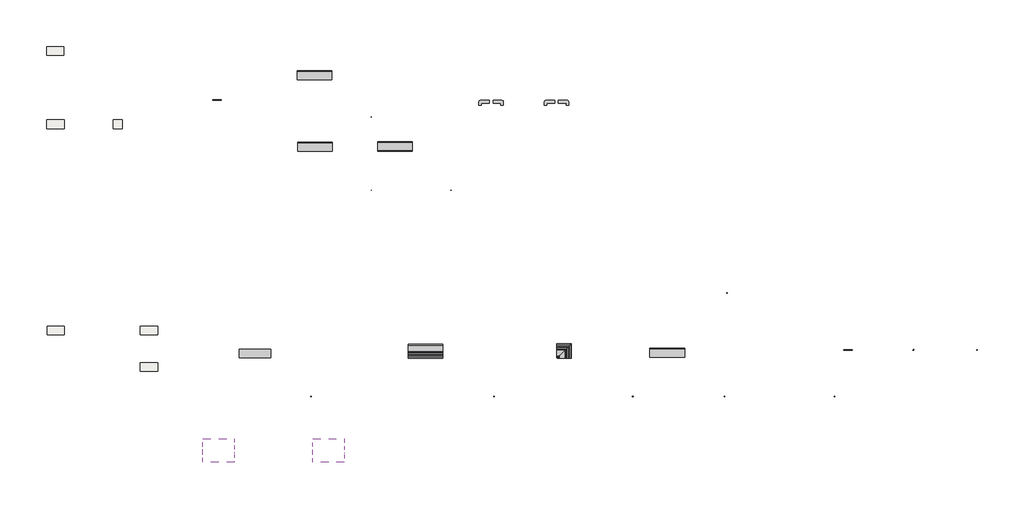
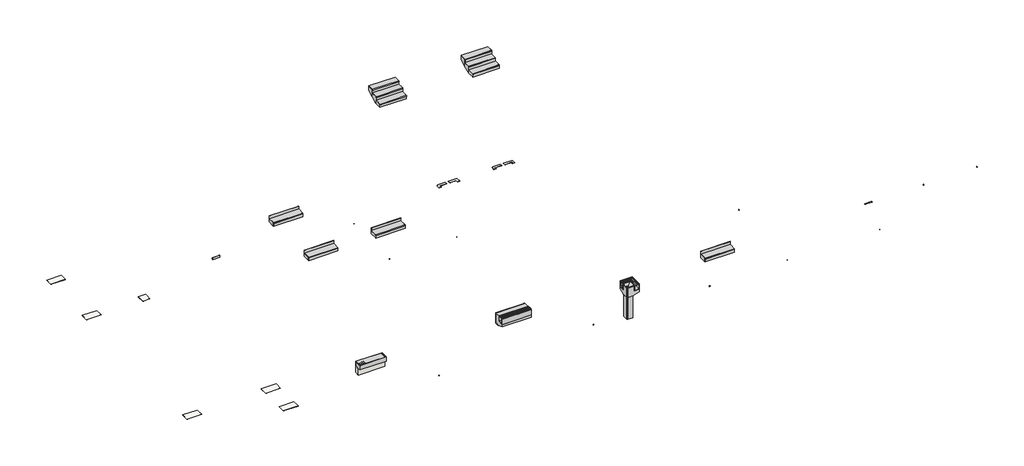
# One storey, incomplete: 18 slabs, 15 proxies, 6 stair flights, 3 walls.
"""IFC4 building model written with IfcOpenShell, lengths in millimetres."""

from ifc_helpers import new_model, si_unit, point, frame, frame_2d, origin, place, context, project, spatial, polyline, circle_curve, trimmed, segment, composite_curve, outline, extrude, faceted_brep, transform, mapped, element, save
from components import generic_models_5bab8272, generic_models_c79c0e69, generic_models_6290b49e, generic_models_9a913470, roca_polar_33x3cm_504bcb03, roca_polar_3x3cm_d871d5da, roca_polar_4x4cm_b0f7cce5, roca_polar_angulo_33x33cm_rejilla_24_5x33cm_6b5bcf94

model = new_model("IFC4")

# Units and contexts
model_context = context("Model", 3, world=origin())
ifc_project = project(units=[si_unit("LENGTHUNIT", "METRE", prefix="MILLI")], contexts=[model_context])

# Site, building, storey
site = spatial("IfcSite", under=ifc_project)
building = spatial("IfcBuilding", under=site)
storey = spatial("IfcBuildingStorey", under=building, Name="EXAGRES_Serie ROCA POLAR_Catálogo", Elevation=18000.0)

# Proxies
placement = place(None, origin())
element("IfcBuildingElementProxy", 1, Name="Exagres_Roca_Polar_Rodapie_9x33", ObjectType="Exagres_Roca_Polar_Rodapie_9x33", at=placement, inside=storey, context=model_context, shape_type="SweptSolid", body=[
    extrude(outline(polyline([(-1251.4690204, 18090.0), (-1251.4690204, 18000.0), (-1266.4690204, 18000.0), (-1266.4690204, 18085.0), (-1261.4690204, 18090.0), (-1251.4690204, 18090.0)])), frame((5125.0437143, 0.0, 0.0), z_axis=(1.0, 0.0, 0.0), x_axis=(0.0, 1.0, 0.0)), (0.0, 0.0, 1.0), 330.0),
])
element("IfcBuildingElementProxy", 2, Name="Wall Sweeps", at=placement, inside=storey, context=model_context, shape_type="SweptSolid", body=[
    extrude(outline(polyline([(-10629.7277813, 18046.2592037), (-10829.7277813, 18046.2592037), (-11129.7277813, 18144.7108891), (-11129.7277813, 18250.0), (-10879.7277813, 18250.0), (-10879.7277813, 18500.0), (-10629.7277813, 18500.0), (-10629.7277813, 18046.2592037)])), frame((12587.844275, 0.0, 0.0), z_axis=(1.0, 0.0, 0.0), x_axis=(0.0, 1.0, 0.0)), (0.0, 0.0, 1.0), 1320.0),
])
element("IfcBuildingElementProxy", 3, Name="Wall Sweeps", at=placement, inside=storey, context=model_context, shape_type="SweptSolid", body=[
    extrude(outline(polyline([(-10909.7277813, 18300.0), (-10909.7277813, 18500.0), (-10879.7277813, 18500.0), (-10879.7277813, 18250.0), (-11129.7277813, 18250.0), (-11129.7277813, 18500.0), (-11099.7277813, 18500.0), (-11099.7277813, 18300.0), (-10909.7277813, 18300.0)])), frame((12587.844275, 0.0, 0.0), z_axis=(1.0, 0.0, 0.0), x_axis=(0.0, 1.0, 0.0)), (0.0, 0.0, 1.0), 1320.0),
])
element("IfcBuildingElementProxy", 4, Name="Wall Sweeps", at=placement, inside=storey, context=model_context, shape_type="SweptSolid", body=[
    extrude(outline(composite_curve([segment(trimmed(circle_curve(frame_2d((-11079.7277813, 18500.0)), 15.0), [point((-11079.7277813, 18515.0))], [point((-11094.7277813, 18500.0))], True, "CARTESIAN"), True, "CONTINUOUS"), segment(polyline([(-11094.7277813, 18500.0), (-11124.7277813, 18500.0), (-11124.7277813, 18511.0), (-11102.2277813, 18511.0), (-11102.2277813, 18519.0), (-11120.7277813, 18519.0), (-11120.7277813, 18530.0), (-11081.2277813, 18530.0), (-11081.2277813, 18525.0), (-11073.2277813, 18525.0), (-11073.2277813, 18530.0), (-11033.7277813, 18530.0), (-11034.7277813, 18519.0), (-11039.7277813, 18519.0), (-11039.7277813, 18511.0), (-11019.7277813, 18511.0), (-11019.7277813, 18519.0), (-11024.7277813, 18519.0), (-11025.7277813, 18530.0), (-10986.2277813, 18530.0), (-10986.2277813, 18525.0), (-10978.2277813, 18525.0), (-10978.2277813, 18530.0), (-10938.7277813, 18530.0), (-10939.7277813, 18519.0), (-10944.7277813, 18519.0), (-10944.7277813, 18511.0), (-10924.7277813, 18511.0), (-10924.7277813, 18519.0), (-10929.7277813, 18519.0), (-10930.7277813, 18530.0), (-10891.2277813, 18530.0), (-10884.7277813, 18515.0), (-10884.7277813, 18500.0), (-10896.7277813, 18500.0), (-10896.7277813, 18511.0)]), True, "CONTINUOUS"), segment(trimmed(circle_curve(frame_2d((-10900.4777813, 18511.0)), 3.75), [point((-10896.7277813, 18511.0))], [point((-10904.2277813, 18511.0))], True, "CARTESIAN"), True, "CONTINUOUS"), segment(polyline([(-10904.2277813, 18511.0), (-10904.2277813, 18500.0), (-10964.7277813, 18500.0)]), True, "CONTINUOUS"), segment(trimmed(circle_curve(frame_2d((-10979.7277813, 18500.0)), 15.0), [point((-10964.7277813, 18500.0))], [point((-10979.7277813, 18515.0))], True, "CARTESIAN"), True, "CONTINUOUS"), segment(polyline([(-10979.7277813, 18515.0), (-10984.7277813, 18515.0)]), True, "CONTINUOUS"), segment(trimmed(circle_curve(frame_2d((-10984.7277813, 18500.0)), 15.0), [point((-10984.7277813, 18515.0))], [point((-10999.7277813, 18500.0))], True, "CARTESIAN"), True, "CONTINUOUS"), segment(polyline([(-10999.7277813, 18500.0), (-11059.7277813, 18500.0)]), True, "CONTINUOUS"), segment(trimmed(circle_curve(frame_2d((-11074.7277813, 18500.0)), 15.0), [point((-11059.7277813, 18500.0))], [point((-11074.7277813, 18515.0))], True, "CARTESIAN"), True, "CONTINUOUS"), segment(polyline([(-11074.7277813, 18515.0), (-11079.7277813, 18515.0)]), True, "CONTINUOUS")], self_intersect=False)), frame((12587.844275, 0.0, 0.0), z_axis=(1.0, 0.0, 0.0), x_axis=(0.0, 1.0, 0.0)), (0.0, 0.0, 1.0), 1320.0),
])
element("IfcBuildingElementProxy", 5, Name="Wall Sweeps", at=placement, inside=storey, context=model_context, shape_type="SweptSolid", body=[
    extrude(outline(polyline([(-10787.7277813, 18500.0), (-10787.7277813, 18508.0), (-10786.7277813, 18508.0), (-10786.7277813, 18514.0), (-10787.7277813, 18514.0), (-10787.7277813, 18521.0), (-10794.7277813, 18521.0), (-10794.7277813, 18522.0), (-10798.7277813, 18522.0), (-10798.7277813, 18521.0), (-10804.7277813, 18521.0), (-10804.7277813, 18522.0), (-10808.7277813, 18522.0), (-10808.7277813, 18521.0), (-10814.7277813, 18521.0), (-10814.7277813, 18522.0), (-10818.7277813, 18522.0), (-10818.7277813, 18521.0), (-10824.7277813, 18521.0), (-10824.7277813, 18522.0), (-10828.7277813, 18522.0), (-10828.7277813, 18521.0), (-10834.7277813, 18521.0), (-10834.7277813, 18522.0), (-10838.7277813, 18522.0), (-10838.7277813, 18521.0), (-10844.7277813, 18521.0), (-10844.7277813, 18522.0), (-10848.7277813, 18522.0), (-10848.7277813, 18521.0), (-10854.7277813, 18521.0), (-10854.7277813, 18522.0), (-10858.7277813, 18522.0), (-10858.7277813, 18521.0), (-10864.7277813, 18521.0), (-10864.7277813, 18522.0), (-10868.7277813, 18522.0), (-10868.7277813, 18521.0), (-10874.7277813, 18521.0), (-10874.7277813, 18522.0), (-10878.7277813, 18522.0), (-10878.7277813, 18521.0), (-10884.7277813, 18521.0), (-10884.7277813, 18522.0), (-10888.7277813, 18522.0), (-10888.7277813, 18521.0), (-10894.7277813, 18521.0), (-10894.7277813, 18522.0), (-10898.7277813, 18522.0), (-10898.7277813, 18521.0), (-10904.7277813, 18521.0), (-10904.7277813, 18522.0), (-10908.7277813, 18522.0), (-10908.7277813, 18521.0), (-10914.7277813, 18521.0), (-10914.7277813, 18522.0), (-10918.7277813, 18522.0), (-10918.7277813, 18521.0), (-10924.7277813, 18521.0), (-10924.7277813, 18522.0), (-10928.7277813, 18522.0), (-10928.7277813, 18521.0), (-10934.7277813, 18521.0), (-10934.7277813, 18522.0), (-10938.7277813, 18522.0), (-10938.7277813, 18521.0), (-10944.7277813, 18521.0), (-10944.7277813, 18522.0), (-10948.7277813, 18522.0), (-10948.7277813, 18521.0), (-10954.7277813, 18521.0), (-10954.7277813, 18522.0), (-10958.7277813, 18522.0), (-10958.7277813, 18521.0), (-10964.7277813, 18521.0), (-10964.7277813, 18522.0), (-10968.7277813, 18522.0), (-10968.7277813, 18521.0), (-10974.7277813, 18521.0), (-10974.7277813, 18522.0), (-10978.7277813, 18522.0), (-10978.7277813, 18521.0), (-10984.7277813, 18521.0), (-10984.7277813, 18522.0), (-10988.7277813, 18522.0), (-10988.7277813, 18521.0), (-10994.7277813, 18521.0), (-10994.7277813, 18522.0), (-10998.7277813, 18522.0), (-10998.7277813, 18521.0), (-11004.7277813, 18521.0), (-11004.7277813, 18522.0), (-11008.7277813, 18522.0), (-11008.7277813, 18521.0), (-11014.7277813, 18521.0), (-11014.7277813, 18522.0), (-11018.7277813, 18522.0), (-11018.7277813, 18521.0), (-11024.7277813, 18521.0), (-11024.7277813, 18522.0), (-11028.7277813, 18522.0), (-11028.7277813, 18521.0), (-11034.7277813, 18521.0), (-11034.7277813, 18522.0), (-11038.7277813, 18522.0), (-11038.7277813, 18521.0), (-11044.7277813, 18521.0), (-11044.7277813, 18522.0), (-11048.7277813, 18522.0), (-11048.7277813, 18521.0), (-11054.7277813, 18521.0), (-11054.7277813, 18522.0), (-11058.7277813, 18522.0), (-11058.7277813, 18521.0), (-11064.7277813, 18521.0), (-11064.7277813, 18522.0), (-11068.7277813, 18522.0), (-11068.7277813, 18521.0), (-11074.7277813, 18521.0), (-11074.7277813, 18522.0), (-11078.7277813, 18522.0), (-11078.7277813, 18521.0), (-11084.7277813, 18521.0), (-11084.7277813, 18522.0), (-11088.7277813, 18522.0), (-11088.7277813, 18521.0), (-11094.7277813, 18521.0), (-11094.7277813, 18522.0), (-11098.7277813, 18522.0), (-11098.7277813, 18521.0), (-11104.7277813, 18521.0), (-11104.7277813, 18533.0), (-10774.7277813, 18533.0), (-10774.7277813, 18500.0), (-10787.7277813, 18500.0)])), frame((6130.0707994, 0.0, 0.0), z_axis=(1.0, 0.0, 0.0), x_axis=(0.0, 1.0, 0.0)), (0.0, 0.0, 1.0), 1202.0),
])
element("IfcBuildingElementProxy", 6, Name="Wall Sweeps", at=placement, inside=storey, context=model_context, shape_type="Brep", body=[
    faceted_brep([(6130.0707994, -11094.7277813, 18318.74), (6130.0707994, -11094.7277813, 18518.74), (6130.0707994, -10789.7277813, 18518.74), (6130.0707994, -10789.7277813, 18500.0), (6130.0707994, -10789.7277813, 18318.74), (6130.0707994, -10999.7277813, 18318.74), (7332.0707994, -11094.7277813, 18318.74), (7332.0707994, -10999.7277813, 18318.74), (7332.0707994, -10789.7277813, 18318.74), (7332.0707994, -10789.7277813, 18500.0), (7332.0707994, -10789.7277813, 18518.74), (7332.0707994, -11094.7277813, 18518.74)], [[[0, 1, 2, 3, 4, 5]], [[6, 7, 8, 9, 10, 11]], [[0, 5, 4, 8, 7, 6]], [[4, 3, 2, 10, 9, 8]], [[2, 1, 11, 10]], [[1, 0, 6, 11]]]),
])
generic_models_shape = generic_models_5bab8272(model_context)
element("IfcBuildingElementProxy", 7, Name="Zanquin Recto 42.3x17.5 : Exagres_Roca_Polar_Zanquin_Rect_Izq", ObjectType="Zanquin Recto 42.3x17.5 : Exagres_Roca_Polar_Zanquin_Rect_Izq", at=placement, inside=storey, context=model_context, shape_type="MappedRepresentation", body=[
    mapped(generic_models_shape, transform((15392.0707994, -1375.5173558, 18000.0), x_axis=(1.0, 0.0, 0.0), y_axis=(0.0, 1.0, 0.0), z_axis=(0.0, 0.0, 1.0))),
])
generic_models_2_shape = generic_models_c79c0e69(model_context)
element("IfcBuildingElementProxy", 8, Name="Zanquin ML 39.5x17.5 : Exagres_Roca_Polar_Zanquin_ML_Izq", ObjectType="Zanquin ML 39.5x17.5 : Exagres_Roca_Polar_Zanquin_ML_Izq", at=placement, inside=storey, context=model_context, shape_type="MappedRepresentation", body=[
    mapped(generic_models_2_shape, transform((17892.0707994, -1375.5173558, 18000.0), x_axis=(1.0, 0.0, 0.0), y_axis=(0.0, 1.0, 0.0), z_axis=(0.0, 0.0, 1.0))),
])
generic_models_3_shape = generic_models_6290b49e(model_context)
element("IfcBuildingElementProxy", 9, Name="Zanquin Recto 42.3x17.5 : Exagres_Roca_Polar_Zanquin_Rect_Der", ObjectType="Zanquin Recto 42.3x17.5 : Exagres_Roca_Polar_Zanquin_Rect_Der", at=placement, inside=storey, context=model_context, shape_type="MappedRepresentation", body=[
    mapped(generic_models_3_shape, transform((16132.0707994, -1375.5173558, 18000.0), x_axis=(-1.0, 0.0, 0.0), y_axis=(0.0, -1.0, 0.0), z_axis=(0.0, 0.0, 1.0))),
])
generic_models_4_shape = generic_models_9a913470(model_context)
element("IfcBuildingElementProxy", 10, Name="Zanquin ML 39.5x17.5 : Exagres_Roca_Polar_Zanquin_ML_Der", ObjectType="Zanquin ML 39.5x17.5 : Exagres_Roca_Polar_Zanquin_ML_Der", at=placement, inside=storey, context=model_context, shape_type="MappedRepresentation", body=[
    mapped(generic_models_4_shape, transform((18632.0707994, -1375.5173558, 18000.0), x_axis=(-1.0, 0.0, 0.0), y_axis=(0.0, -1.0, 0.0), z_axis=(0.0, 0.0, 1.0))),
])
roca_polar_33x3cm_shape = roca_polar_33x3cm_504bcb03(model_context)
element("IfcBuildingElementProxy", 11, Name="EXAGRES - Piscina Arista : Roca_Polar_33x3cm", ObjectType="EXAGRES - Piscina Arista : Roca_Polar_33x3cm", at=placement, inside=storey, context=model_context, shape_type="MappedRepresentation", body=[
    mapped(roca_polar_33x3cm_shape, transform((29229.1243906, -10824.0598396, 18030.0), x_axis=(1.0, 0.0, 0.0), y_axis=(0.0, 1.0, 0.0), z_axis=(0.0, 0.0, 1.0))),
])
roca_polar_3x3cm_shape = roca_polar_3x3cm_d871d5da(model_context)
element("IfcBuildingElementProxy", 12, Name="EXAGRES - Piscina Uña Arista : Roca_Polar_3x3cm", ObjectType="EXAGRES - Piscina Uña Arista : Roca_Polar_3x3cm", at=placement, inside=storey, context=model_context, shape_type="MappedRepresentation", body=[
    mapped(roca_polar_3x3cm_shape, transform((24787.844275, -8649.7277813, 18000.0), x_axis=(1.0, 0.0, 0.0), y_axis=(0.0, 1.0, 0.0), z_axis=(0.0, 0.0, 1.0))),
])
element("IfcBuildingElementProxy", 13, Name="EXAGRES - Piscina Uña Arista : Roca_Polar_3x3cm", ObjectType="EXAGRES - Piscina Uña Arista : Roca_Polar_3x3cm", at=placement, inside=storey, context=model_context, shape_type="MappedRepresentation", body=[
    mapped(roca_polar_3x3cm_shape, transform((34346.4584066, -10821.3496882, 18030.0), x_axis=(1.0, 0.0, 0.0), y_axis=(0.0, 1.0, 0.0), z_axis=(0.0, 0.0, 1.0))),
])
roca_polar_4x4cm_shape = roca_polar_4x4cm_b0f7cce5(model_context)
element("IfcBuildingElementProxy", 14, Name="EXAGRES - Piscina Uña : Roca_Polar_4x4cm", ObjectType="EXAGRES - Piscina Uña : Roca_Polar_4x4cm", at=placement, inside=storey, context=model_context, shape_type="MappedRepresentation", body=[
    mapped(roca_polar_4x4cm_shape, transform((31887.844275, -10799.7277813, 18000.0), x_axis=(1.0, 0.0, 0.0), y_axis=(0.0, 1.0, 0.0), z_axis=(0.0, 0.0, 1.0))),
])
roca_polar_angulo_33x33cm_rejilla_24_5x33cm_shape = roca_polar_angulo_33x33cm_rejilla_24_5x33cm_6b5bcf94(model_context)
element("IfcBuildingElementProxy", 15, Name="EXAGRES - Coronación Ángulo desbordante : Roca_Polar_Angulo_33x33cm _Rejilla_24.5x33cm", ObjectType="EXAGRES - Coronación Ángulo desbordante : Roca_Polar_Angulo_33x33cm _Rejilla_24.5x33cm", at=placement, inside=storey, context=model_context, shape_type="MappedRepresentation", body=[
    mapped(roca_polar_angulo_33x33cm_rejilla_24_5x33cm_shape, transform((18287.844275, -11099.7277813, 18000.0), x_axis=(1.0, 0.0, 0.0), y_axis=(0.0, 1.0, 0.0), z_axis=(0.0, 0.0, 1.0))),
])

# Slabs
element("IfcSlab", 16, ObjectType="Exagres_Roca_Polar_Base_33x66,5_C1", at=placement, inside=storey, context=model_context, shape_type="SweptSolid", body=[
    extrude(outline(polyline([(-563.1781102, 784.4826442), (-563.1781102, 452.4826442), (-1230.1781102, 452.4826442), (-1230.1781102, 784.4826442), (-563.1781102, 784.4826442)])), frame((0.0, 0.0, 17990.0), z_axis=(0.0, 0.0, 1.0), x_axis=(1.0, 0.0, 0.0)), (0.0, 0.0, 1.0), 10.0),
])
element("IfcSlab", 17, ObjectType="Exagres_Roca_Polar_Base_33x66,5_C3", at=placement, inside=storey, context=model_context, shape_type="SweptSolid", body=[
    extrude(outline(polyline([(-561.1781102, -2015.5173558), (-561.1781102, -2349.5173558), (-1230.1781102, -2349.5173558), (-1230.1781102, -2015.5173558), (-561.1781102, -2015.5173558)])), frame((0.0, 0.0, 17990.0), z_axis=(0.0, 0.0, 1.0), x_axis=(1.0, 0.0, 0.0)), (0.0, 0.0, 1.0), 10.0),
])
element("IfcSlab", 18, ObjectType="Exagres_Roca_Polar_Base_33x33_C3", at=placement, inside=storey, context=model_context, shape_type="SweptSolid", body=[
    extrude(outline(polyline([(1653.8218898, -2015.5173558), (1653.8218898, -2349.5173558), (1319.8218898, -2349.5173558), (1319.8218898, -2015.5173558), (1653.8218898, -2015.5173558)])), frame((0.0, 0.0, 17990.0), z_axis=(0.0, 0.0, 1.0), x_axis=(1.0, 0.0, 0.0)), (0.0, 0.0, 1.0), 10.0),
])
element("IfcSlab", 19, ObjectType="Exagres_Roca_Polar_Peld_Rect_33x33_C1", at=placement, inside=storey, context=model_context, shape_type="SweptSolid", body=[
    extrude(outline(polyline([(11182.0707994, -1905.5173558), (11182.0707994, -1915.5173558), (11172.0707994, -1915.5173558), (11172.0707994, -1905.5173558), (11182.0707994, -1905.5173558)])), frame((0.0, 0.0, 17988.0), z_axis=(0.0, 0.0, 1.0), x_axis=(1.0, 0.0, 0.0)), (0.0, 0.0, 1.0), 12.0),
])
element("IfcSlab", 20, ObjectType="Exagres_Roca_Polar_Peld_Rect_33x33_C3", at=placement, inside=storey, context=model_context, shape_type="SweptSolid", body=[
    extrude(outline(polyline([(11182.0707994, -4705.5173558), (11182.0707994, -4715.5173558), (11172.0707994, -4715.5173558), (11172.0707994, -4705.5173558), (11182.0707994, -4705.5173558)])), frame((0.0, 0.0, 17988.0), z_axis=(0.0, 0.0, 1.0), x_axis=(1.0, 0.0, 0.0)), (0.0, 0.0, 1.0), 12.0),
])
element("IfcSlab", 21, ObjectType="Exagres_Roca_Polar_Peld_ML_33x33_C3", at=placement, inside=storey, context=model_context, shape_type="SweptSolid", body=[
    extrude(outline(polyline([(14232.0707994, -4705.5173558), (14232.0707994, -4715.5173558), (14222.0707994, -4715.5173558), (14222.0707994, -4705.5173558), (14232.0707994, -4705.5173558)])), frame((0.0, 0.0, 17988.0), z_axis=(0.0, 0.0, 1.0), x_axis=(1.0, 0.0, 0.0)), (0.0, 0.0, 1.0), 12.0),
])
element("IfcSlab", 22, ObjectType="Exagres_Roca_Polar_Piscina_33x66,5_C1", at=placement, inside=storey, context=model_context, shape_type="SweptSolid", body=[
    extrude(outline(polyline([(-545.155725, -9899.7277813), (-545.155725, -10231.7277813), (-1212.155725, -10231.7277813), (-1212.155725, -9899.7277813), (-545.155725, -9899.7277813)])), frame((0.0, 0.0, 17990.0), z_axis=(0.0, 0.0, 1.0), x_axis=(1.0, 0.0, 0.0)), (0.0, 0.0, 1.0), 10.0),
])
element("IfcSlab", 23, ObjectType="Exagres_Roca_Polar_Piscina_33x66,5_C3", at=placement, inside=storey, context=model_context, shape_type="SweptSolid", body=[
    extrude(outline(polyline([(3028.596948, -11299.7277813), (3028.596948, -11633.7277813), (2359.596948, -11633.7277813), (2359.596948, -11299.7277813), (3028.596948, -11299.7277813)])), frame((0.0, 0.0, 17990.0), z_axis=(0.0, 0.0, 1.0), x_axis=(1.0, 0.0, 0.0)), (0.0, 0.0, 1.0), 10.0),
])
element("IfcSlab", 24, ObjectType="Exagres_Roca_Polar_Peld_Rect_33x33_C3", at=placement, inside=storey, context=model_context, shape_type="SweptSolid", body=[
    extrude(outline(polyline([(24687.844275, -12589.7277813), (24687.844275, -12599.7277813), (24677.844275, -12599.7277813), (24677.844275, -12589.7277813), (24687.844275, -12589.7277813)])), frame((0.0, 0.0, 17988.0), z_axis=(0.0, 0.0, 1.0), x_axis=(1.0, 0.0, 0.0)), (0.0, 0.0, 1.0), 12.0),
])
element("IfcSlab", 25, ObjectType="Exagres_Roca_Polar_Piscina_Desb_Borde_28x66,5", at=placement, inside=storey, context=model_context, shape_type="SweptSolid", body=[
    extrude(outline(polyline([(15877.844275, -12589.7277813), (15877.844275, -12599.7277813), (15867.844275, -12599.7277813), (15867.844275, -12589.7277813), (15877.844275, -12589.7277813)])), frame((0.0, 0.0, 17970.0), z_axis=(0.0, 0.0, 1.0), x_axis=(1.0, 0.0, 0.0)), (0.0, 0.0, 1.0), 30.0),
])
element("IfcSlab", 26, ObjectType="Exagres_Roca_Polar_Piscina_Desb_Rejilla_Ang_24,5x33", at=placement, inside=storey, context=model_context, shape_type="SweptSolid", body=[
    extrude(outline(polyline([(21187.844275, -12589.7277813), (21187.844275, -12599.7277813), (21177.844275, -12599.7277813), (21177.844275, -12589.7277813), (21187.844275, -12589.7277813)])), frame((0.0, 0.0, 17970.0), z_axis=(0.0, 0.0, 1.0), x_axis=(1.0, 0.0, 0.0)), (0.0, 0.0, 1.0), 30.0),
])
element("IfcSlab", 27, ObjectType="Exagres_Roca_Polar_Piscina_Mediacaña_33x4", at=placement, inside=storey, context=model_context, shape_type="SweptSolid", body=[
    extrude(outline(polyline([(28887.844275, -12589.7277813), (28887.844275, -12599.7277813), (28877.844275, -12599.7277813), (28877.844275, -12589.7277813), (28887.844275, -12589.7277813)])), frame((0.0, 0.0, 17991.0), z_axis=(0.0, 0.0, 1.0), x_axis=(1.0, 0.0, 0.0)), (0.0, 0.0, 1.0), 9.0),
])
element("IfcSlab", 28, ObjectType="Exagres_Roca_Polar_Piscina_Desb_Rejilla_24,5x24,5", at=placement, inside=storey, context=model_context, shape_type="SweptSolid", body=[
    extrude(outline(polyline([(15887.844275, -12589.7277813), (15887.844275, -12599.7277813), (15877.844275, -12599.7277813), (15877.844275, -12589.7277813), (15887.844275, -12589.7277813)])), frame((0.0, 0.0, 17970.0), z_axis=(0.0, 0.0, 1.0), x_axis=(1.0, 0.0, 0.0)), (0.0, 0.0, 1.0), 30.0),
])
element("IfcSlab", 29, ObjectType="Exagres_Roca_Polar_Piscina_33x66,5_C1", at=placement, inside=storey, context=model_context, shape_type="SweptSolid", body=[
    extrude(outline(polyline([(3026.596948, -9899.7277813), (3026.596948, -10231.7277813), (2359.596948, -10231.7277813), (2359.596948, -9899.7277813), (3026.596948, -9899.7277813)])), frame((0.0, 0.0, 17990.0), z_axis=(0.0, 0.0, 1.0), x_axis=(1.0, 0.0, 0.0)), (0.0, 0.0, 1.0), 10.0),
])
element("IfcSlab", 30, ObjectType="Exagres_Roca_Polar_Piscina_Desb_Borde_Ang_33x33", at=placement, inside=storey, context=model_context, shape_type="SweptSolid", body=[
    extrude(outline(polyline([(21177.844275, -12589.7277813), (21177.844275, -12599.7277813), (21167.844275, -12599.7277813), (21167.844275, -12589.7277813), (21177.844275, -12589.7277813)])), frame((0.0, 0.0, 17970.0), z_axis=(0.0, 0.0, 1.0), x_axis=(1.0, 0.0, 0.0)), (0.0, 0.0, 1.0), 30.0),
])
element("IfcSlab", 31, ObjectType="Exagres_Roca_Polar_Peld_Rect_33x33_C3", at=placement, inside=storey, context=model_context, shape_type="SweptSolid", body=[
    extrude(outline(polyline([(8880.0707994, -12589.7277813), (8880.0707994, -12599.7277813), (8870.0707994, -12599.7277813), (8870.0707994, -12589.7277813), (8880.0707994, -12589.7277813)])), frame((0.0, 0.0, 17988.0), z_axis=(0.0, 0.0, 1.0), x_axis=(1.0, 0.0, 0.0)), (0.0, 0.0, 1.0), 12.0),
])
element("IfcSlab", 32, ObjectType="Exagres_Roca_Polar_Piscina_Desb_Borde_28x66,5", at=placement, inside=storey, context=model_context, shape_type="SweptSolid", body=[
    extrude(outline(polyline([(21157.844275, -12589.7277813), (21157.844275, -12599.7277813), (21147.844275, -12599.7277813), (21147.844275, -12589.7277813), (21157.844275, -12589.7277813)])), frame((0.0, 0.0, 17970.0), z_axis=(0.0, 0.0, 1.0), x_axis=(1.0, 0.0, 0.0)), (0.0, 0.0, 1.0), 30.0),
])
element("IfcSlab", 33, ObjectType="Exagres_Roca_Polar_Piscina_Desb_Rejilla_24,5x24,5", at=placement, inside=storey, context=model_context, shape_type="SweptSolid", body=[
    extrude(outline(polyline([(21167.844275, -12589.7277813), (21167.844275, -12599.7277813), (21157.844275, -12599.7277813), (21157.844275, -12589.7277813), (21167.844275, -12589.7277813)])), frame((0.0, 0.0, 17970.0), z_axis=(0.0, 0.0, 1.0), x_axis=(1.0, 0.0, 0.0)), (0.0, 0.0, 1.0), 30.0),
])

# Stair flights
element("IfcStairFlight", 34, ObjectType="EXAGRES_ML - Roca Polar C3", at=placement, inside=storey, context=model_context, shape_type="SolidModel", body=[
    faceted_brep([(4748.0970953, -14777.6587674, 33972.3684211), (4748.0970953, -15077.6587674, 33972.3684211), (5948.0970953, -15077.6587674, 33972.3684211), (5948.0970953, -14777.6587674, 33972.3684211), (4748.0970953, -14777.6587674, 33820.0), (4748.0970953, -15077.6587674, 33820.0), (5948.0970953, -15077.6587674, 33820.0), (5948.0970953, -14777.6587674, 33820.0), (4748.0970953, -14477.6587674, 34139.7368421), (4748.0970953, -14777.6587674, 34139.7368421), (5948.0970953, -14777.6587674, 34139.7368421), (5948.0970953, -14477.6587674, 34139.7368421), (4748.0970953, -14477.6587674, 33956.5213642), (4748.0970953, -14722.3668729, 33820.0), (5948.0970953, -14722.3668729, 33820.0), (5948.0970953, -14477.6587674, 33956.5213642), (4748.0970953, -14211.6587674, 34104.9213642), (5948.0970953, -14211.6587674, 34104.9213642), (4748.0970953, -14211.6587674, 34307.1052632), (4748.0970953, -14477.6587674, 34307.1052632), (5948.0970953, -14477.6587674, 34307.1052632), (5948.0970953, -14211.6587674, 34307.1052632)], [[[0, 1, 2, 3]], [[1, 0, 4, 5]], [[2, 1, 5, 6]], [[3, 2, 6, 7]], [[8, 9, 10, 11]], [[4, 0, 9, 8, 12, 13]], [[0, 3, 10, 9]], [[3, 7, 14, 15, 11, 10]], [[5, 4, 13, 14, 7, 6]], [[14, 13, 12, 16, 17, 15]], [[18, 19, 20, 21]], [[19, 18, 16, 12, 8]], [[8, 11, 20, 19]], [[21, 20, 11, 15, 17]], [[18, 21, 17, 16]]]),
    extrude(outline(composite_curve([segment(polyline([(-15091.6587674, 33987.3684211), (-14777.6587674, 33987.3684211), (-14777.6587674, 33972.3684211), (-15063.7492185, 33972.3684211), (-15063.7492185, 33971.8684211), (-15067.6587674, 33971.8684211), (-15067.6587674, 33972.3684211), (-15069.2492185, 33972.3684211), (-15069.2492185, 33972.8684211), (-15071.6587674, 33972.8684211), (-15071.6587674, 33971.8684211), (-15078.6587674, 33971.8684211), (-15078.6587674, 33964.8684211), (-15079.6587674, 33964.8684211), (-15079.6587674, 33958.8684211), (-15078.6587674, 33958.8684211), (-15078.6587674, 33947.3684211), (-15091.6587674, 33947.3684211)]), True, "CONTINUOUS"), segment(trimmed(circle_curve(frame_2d((-15091.6587674, 33967.3684211)), 20.0), [point((-15091.6587674, 33947.3684211))], [point((-15091.6587674, 33987.3684211))], False, "CARTESIAN"), True, "CONTINUOUS")], self_intersect=False)), frame((4748.0970953, 0.0, 0.0), z_axis=(1.0, 0.0, 0.0), x_axis=(0.0, 1.0, 0.0)), (0.0, 0.0, 1.0), 1200.0),
    extrude(outline(polyline([(5948.0970953, -15077.6587674), (5948.0970953, -15087.6587674), (4748.0970953, -15087.6587674), (4748.0970953, -15077.6587674), (5948.0970953, -15077.6587674)])), frame((0.0, 0.0, 33820.0), z_axis=(0.0, 0.0, 1.0), x_axis=(1.0, 0.0, 0.0)), (0.0, 0.0, 1.0), 127.3684211),
    extrude(outline(polyline([(5948.0970953, -14777.6587674), (5948.0970953, -14787.6587674), (4748.0970953, -14787.6587674), (4748.0970953, -14777.6587674), (5948.0970953, -14777.6587674)])), frame((0.0, 0.0, 33987.3684211), z_axis=(0.0, 0.0, 1.0), x_axis=(1.0, 0.0, 0.0)), (0.0, 0.0, 1.0), 127.3684211),
    extrude(outline(composite_curve([segment(polyline([(-14791.6587674, 34154.7368421), (-14477.6587674, 34154.7368421), (-14477.6587674, 34139.7368421), (-14763.7492185, 34139.7368421), (-14763.7492185, 34139.2368421), (-14767.6587674, 34139.2368421), (-14767.6587674, 34139.7368421), (-14769.2492185, 34139.7368421), (-14769.2492185, 34140.2368421), (-14771.6587674, 34140.2368421), (-14771.6587674, 34139.2368421), (-14778.6587674, 34139.2368421), (-14778.6587674, 34132.2368421), (-14779.6587674, 34132.2368421), (-14779.6587674, 34126.2368421), (-14778.6587674, 34126.2368421), (-14778.6587674, 34114.7368421), (-14791.6587674, 34114.7368421)]), True, "CONTINUOUS"), segment(trimmed(circle_curve(frame_2d((-14791.6587674, 34134.7368421)), 20.0), [point((-14791.6587674, 34114.7368421))], [point((-14791.6587674, 34154.7368421))], False, "CARTESIAN"), True, "CONTINUOUS")], self_intersect=False)), frame((4748.0970953, 0.0, 0.0), z_axis=(1.0, 0.0, 0.0), x_axis=(0.0, 1.0, 0.0)), (0.0, 0.0, 1.0), 1200.0),
    extrude(outline(polyline([(5948.0970953, -14477.6587674), (5948.0970953, -14487.6587674), (4748.0970953, -14487.6587674), (4748.0970953, -14477.6587674), (5948.0970953, -14477.6587674)])), frame((0.0, 0.0, 34154.7368421), z_axis=(0.0, 0.0, 1.0), x_axis=(1.0, 0.0, 0.0)), (0.0, 0.0, 1.0), 127.3684211),
    extrude(outline(composite_curve([segment(polyline([(-14491.6587674, 34322.1052632), (-14211.6587674, 34322.1052632), (-14211.6587674, 34307.1052632), (-14463.7492185, 34307.1052632), (-14463.7492185, 34306.6052632), (-14467.6587674, 34306.6052632), (-14467.6587674, 34307.1052632), (-14469.2492185, 34307.1052632), (-14469.2492185, 34307.6052632), (-14471.6587674, 34307.6052632), (-14471.6587674, 34306.6052632), (-14478.6587674, 34306.6052632), (-14478.6587674, 34299.6052632), (-14479.6587674, 34299.6052632), (-14479.6587674, 34293.6052632), (-14478.6587674, 34293.6052632), (-14478.6587674, 34282.1052632), (-14491.6587674, 34282.1052632)]), True, "CONTINUOUS"), segment(trimmed(circle_curve(frame_2d((-14491.6587674, 34302.1052632)), 20.0), [point((-14491.6587674, 34282.1052632))], [point((-14491.6587674, 34322.1052632))], False, "CARTESIAN"), True, "CONTINUOUS")], self_intersect=False)), frame((4748.0970953, 0.0, 0.0), z_axis=(1.0, 0.0, 0.0), x_axis=(0.0, 1.0, 0.0)), (0.0, 0.0, 1.0), 1200.0),
])
element("IfcStairFlight", 35, ObjectType="EXAGRES_Recto - Roca Polar C3", at=placement, inside=storey, context=model_context, shape_type="SweptSolid", body=[
    extrude(outline(polyline([(8362.6218417, -3203.5667634), (8362.6218417, -2873.5667634), (9692.6218417, -2873.5667634), (9692.6218417, -3203.5667634), (8362.6218417, -3203.5667634)])), frame((0.0, 0.0, 18000.0), z_axis=(0.0, 0.0, 1.0), x_axis=(1.0, 0.0, 0.0)), (0.0, 0.0, 1.0), 151.6666667),
    extrude(outline(polyline([(-2873.5667634, 18151.6666667), (-3200.6572145, 18151.6666667), (-3200.6572145, 18154.6666667), (-3205.5667634, 18154.6666667), (-3205.5667634, 18147.6666667), (-3206.5667634, 18147.6666667), (-3206.5667634, 18141.6666667), (-3205.5667634, 18141.6666667), (-3205.5667634, 18133.6666667), (-3218.5667634, 18133.6666667), (-3218.5667634, 18166.6666667), (-2873.5667634, 18166.6666667), (-2873.5667634, 18151.6666667)])), frame((8362.6218417, 0.0, 0.0), z_axis=(1.0, 0.0, 0.0), x_axis=(0.0, 1.0, 0.0)), (0.0, 0.0, 1.0), 1330.0),
    extrude(outline(polyline([(9692.6218417, -3203.5667634), (9692.6218417, -3218.5667634), (8362.6218417, -3218.5667634), (8362.6218417, -3203.5667634), (9692.6218417, -3203.5667634)])), frame((0.0, 0.0, 18000.0), z_axis=(0.0, 0.0, 1.0), x_axis=(1.0, 0.0, 0.0)), (0.0, 0.0, 1.0), 133.6666667),
    extrude(outline(polyline([(9692.6218417, -2873.5667634), (9692.6218417, -2888.5667634), (8362.6218417, -2888.5667634), (8362.6218417, -2873.5667634), (9692.6218417, -2873.5667634)])), frame((0.0, 0.0, 18166.6666667), z_axis=(0.0, 0.0, 1.0), x_axis=(1.0, 0.0, 0.0)), (0.0, 0.0, 1.0), 133.6666667),
])
element("IfcStairFlight", 36, ObjectType="EXAGRES_Recto - Roca Polar C1", at=placement, inside=storey, context=model_context, shape_type="SweptSolid", body=[
    extrude(outline(polyline([(8347.9503057, -476.1306727), (8347.9503057, -146.1306727), (9677.9503057, -146.1306727), (9677.9503057, -476.1306727), (8347.9503057, -476.1306727)])), frame((0.0, 0.0, 18000.0), z_axis=(0.0, 0.0, 1.0), x_axis=(1.0, 0.0, 0.0)), (0.0, 0.0, 1.0), 151.6666667),
    extrude(outline(polyline([(-146.1306727, 18151.6666667), (-473.2211238, 18151.6666667), (-473.2211238, 18154.6666667), (-478.1306727, 18154.6666667), (-478.1306727, 18147.6666667), (-479.1306727, 18147.6666667), (-479.1306727, 18141.6666667), (-478.1306727, 18141.6666667), (-478.1306727, 18133.6666667), (-491.1306727, 18133.6666667), (-491.1306727, 18166.6666667), (-146.1306727, 18166.6666667), (-146.1306727, 18151.6666667)])), frame((8347.9503057, 0.0, 0.0), z_axis=(1.0, 0.0, 0.0), x_axis=(0.0, 1.0, 0.0)), (0.0, 0.0, 1.0), 1330.0),
    extrude(outline(polyline([(9677.9503057, -476.1306727), (9677.9503057, -491.1306727), (8347.9503057, -491.1306727), (8347.9503057, -476.1306727), (9677.9503057, -476.1306727)])), frame((0.0, 0.0, 18000.0), z_axis=(0.0, 0.0, 1.0), x_axis=(1.0, 0.0, 0.0)), (0.0, 0.0, 1.0), 133.6666667),
    extrude(outline(polyline([(9677.9503057, -146.1306727), (9677.9503057, -161.1306727), (8347.9503057, -161.1306727), (8347.9503057, -146.1306727), (9677.9503057, -146.1306727)])), frame((0.0, 0.0, 18166.6666667), z_axis=(0.0, 0.0, 1.0), x_axis=(1.0, 0.0, 0.0)), (0.0, 0.0, 1.0), 133.6666667),
])
element("IfcStairFlight", 37, ObjectType="EXAGRES_ML - Roca Polar C3", at=placement, inside=storey, context=model_context, shape_type="SweptSolid", body=[
    extrude(outline(polyline([(11421.7915516, -3184.5667634), (11421.7915516, -2854.5667634), (12751.7915516, -2854.5667634), (12751.7915516, -3184.5667634), (11421.7915516, -3184.5667634)])), frame((0.0, 0.0, 18000.0), z_axis=(0.0, 0.0, 1.0), x_axis=(1.0, 0.0, 0.0)), (0.0, 0.0, 1.0), 151.6666667),
    extrude(outline(composite_curve([segment(polyline([(-3198.5667634, 18166.6666667), (-2854.5667634, 18166.6666667), (-2854.5667634, 18151.6666667), (-3170.6572145, 18151.6666667), (-3170.6572145, 18151.1666667), (-3174.5667634, 18151.1666667), (-3174.5667634, 18151.6666667), (-3176.1572145, 18151.6666667), (-3176.1572145, 18152.1666667), (-3178.5667634, 18152.1666667), (-3178.5667634, 18151.1666667), (-3185.5667634, 18151.1666667), (-3185.5667634, 18144.1666667), (-3186.5667634, 18144.1666667), (-3186.5667634, 18138.1666667), (-3185.5667634, 18138.1666667), (-3185.5667634, 18126.6666667), (-3198.5667634, 18126.6666667)]), True, "CONTINUOUS"), segment(trimmed(circle_curve(frame_2d((-3198.5667634, 18146.6666667)), 20.0), [point((-3198.5667634, 18126.6666667))], [point((-3198.5667634, 18166.6666667))], False, "CARTESIAN"), True, "CONTINUOUS")], self_intersect=False)), frame((11421.7915516, 0.0, 0.0), z_axis=(1.0, 0.0, 0.0), x_axis=(0.0, 1.0, 0.0)), (0.0, 0.0, 1.0), 1330.0),
    extrude(outline(polyline([(12751.7915516, -3184.5667634), (12751.7915516, -3194.5667634), (11421.7915516, -3194.5667634), (11421.7915516, -3184.5667634), (12751.7915516, -3184.5667634)])), frame((0.0, 0.0, 18000.0), z_axis=(0.0, 0.0, 1.0), x_axis=(1.0, 0.0, 0.0)), (0.0, 0.0, 1.0), 126.6666667),
    extrude(outline(polyline([(12751.7915516, -2854.5667634), (12751.7915516, -2864.5667634), (11421.7915516, -2864.5667634), (11421.7915516, -2854.5667634), (12751.7915516, -2854.5667634)])), frame((0.0, 0.0, 18166.6666667), z_axis=(0.0, 0.0, 1.0), x_axis=(1.0, 0.0, 0.0)), (0.0, 0.0, 1.0), 126.6666667),
])
element("IfcStairFlight", 38, ObjectType="EXAGRES_Recto - Roca Polar C3", at=placement, inside=storey, context=model_context, shape_type="SweptSolid", body=[
    extrude(outline(polyline([(21825.925566, -11071.4612995), (21825.925566, -10741.4612995), (23155.925566, -10741.4612995), (23155.925566, -11071.4612995), (21825.925566, -11071.4612995)])), frame((0.0, 0.0, 18000.0), z_axis=(0.0, 0.0, 1.0), x_axis=(1.0, 0.0, 0.0)), (0.0, 0.0, 1.0), 154.4915254),
    extrude(outline(polyline([(-10741.4612995, 18154.4915254), (-11068.5517506, 18154.4915254), (-11068.5517506, 18157.4915254), (-11073.4612995, 18157.4915254), (-11073.4612995, 18150.4915254), (-11074.4612995, 18150.4915254), (-11074.4612995, 18144.4915254), (-11073.4612995, 18144.4915254), (-11073.4612995, 18136.4915254), (-11086.4612995, 18136.4915254), (-11086.4612995, 18169.4915254), (-10741.4612995, 18169.4915254), (-10741.4612995, 18154.4915254)])), frame((21825.925566, 0.0, 0.0), z_axis=(1.0, 0.0, 0.0), x_axis=(0.0, 1.0, 0.0)), (0.0, 0.0, 1.0), 1330.0),
    extrude(outline(polyline([(23155.925566, -11071.4612995), (23155.925566, -11086.4612995), (21825.925566, -11086.4612995), (21825.925566, -11071.4612995), (23155.925566, -11071.4612995)])), frame((0.0, 0.0, 18000.0), z_axis=(0.0, 0.0, 1.0), x_axis=(1.0, 0.0, 0.0)), (0.0, 0.0, 1.0), 136.4915254),
    extrude(outline(polyline([(23155.925566, -10741.4612995), (23155.925566, -10756.4612995), (21825.925566, -10756.4612995), (21825.925566, -10741.4612995), (23155.925566, -10741.4612995)])), frame((0.0, 0.0, 18169.4915254), z_axis=(0.0, 0.0, 1.0), x_axis=(1.0, 0.0, 0.0)), (0.0, 0.0, 1.0), 136.4915254),
])
element("IfcStairFlight", 39, ObjectType="EXAGRES_Recto - Roca Polar C1", at=placement, inside=storey, context=model_context, shape_type="SolidModel", body=[
    faceted_brep([(8948.0970953, -14796.6587674, 33972.3684211), (8948.0970953, -15096.6587674, 33972.3684211), (10148.0970953, -15096.6587674, 33972.3684211), (10148.0970953, -14796.6587674, 33972.3684211), (8948.0970953, -14796.6587674, 33820.0), (8948.0970953, -15096.6587674, 33820.0), (10148.0970953, -15096.6587674, 33820.0), (10148.0970953, -14796.6587674, 33820.0), (8948.0970953, -14496.6587674, 34139.7368421), (8948.0970953, -14796.6587674, 34139.7368421), (10148.0970953, -14796.6587674, 34139.7368421), (10148.0970953, -14496.6587674, 34139.7368421), (8948.0970953, -14496.6587674, 33956.5213642), (8948.0970953, -14741.3668729, 33820.0), (10148.0970953, -14741.3668729, 33820.0), (10148.0970953, -14496.6587674, 33956.5213642), (8948.0970953, -14211.6587674, 34115.5213642), (10148.0970953, -14211.6587674, 34115.5213642), (8948.0970953, -14211.6587674, 34307.1052632), (8948.0970953, -14496.6587674, 34307.1052632), (10148.0970953, -14496.6587674, 34307.1052632), (10148.0970953, -14211.6587674, 34307.1052632)], [[[0, 1, 2, 3]], [[1, 0, 4, 5]], [[2, 1, 5, 6]], [[3, 2, 6, 7]], [[8, 9, 10, 11]], [[4, 0, 9, 8, 12, 13]], [[0, 3, 10, 9]], [[3, 7, 14, 15, 11, 10]], [[5, 4, 13, 14, 7, 6]], [[14, 13, 12, 16, 17, 15]], [[18, 19, 20, 21]], [[19, 18, 16, 12, 8]], [[8, 11, 20, 19]], [[21, 20, 11, 15, 17]], [[18, 21, 17, 16]]]),
    extrude(outline(polyline([(-14796.6587674, 33972.3684211), (-15093.7492185, 33972.3684211), (-15093.7492185, 33975.3684211), (-15098.6587674, 33975.3684211), (-15098.6587674, 33968.3684211), (-15099.6587674, 33968.3684211), (-15099.6587674, 33962.3684211), (-15098.6587674, 33962.3684211), (-15098.6587674, 33954.3684211), (-15111.6587674, 33954.3684211), (-15111.6587674, 33987.3684211), (-14796.6587674, 33987.3684211), (-14796.6587674, 33972.3684211)])), frame((8948.0970953, 0.0, 0.0), z_axis=(1.0, 0.0, 0.0), x_axis=(0.0, 1.0, 0.0)), (0.0, 0.0, 1.0), 1200.0),
    extrude(outline(polyline([(10148.0970953, -15096.6587674), (10148.0970953, -15111.6587674), (8948.0970953, -15111.6587674), (8948.0970953, -15096.6587674), (10148.0970953, -15096.6587674)])), frame((0.0, 0.0, 33820.0), z_axis=(0.0, 0.0, 1.0), x_axis=(1.0, 0.0, 0.0)), (0.0, 0.0, 1.0), 134.3684211),
    extrude(outline(polyline([(10148.0970953, -14796.6587674), (10148.0970953, -14811.6587674), (8948.0970953, -14811.6587674), (8948.0970953, -14796.6587674), (10148.0970953, -14796.6587674)])), frame((0.0, 0.0, 33987.3684211), z_axis=(0.0, 0.0, 1.0), x_axis=(1.0, 0.0, 0.0)), (0.0, 0.0, 1.0), 134.3684211),
    extrude(outline(polyline([(-14496.6587674, 34139.7368421), (-14793.7492185, 34139.7368421), (-14793.7492185, 34142.7368421), (-14798.6587674, 34142.7368421), (-14798.6587674, 34135.7368421), (-14799.6587674, 34135.7368421), (-14799.6587674, 34129.7368421), (-14798.6587674, 34129.7368421), (-14798.6587674, 34121.7368421), (-14811.6587674, 34121.7368421), (-14811.6587674, 34154.7368421), (-14496.6587674, 34154.7368421), (-14496.6587674, 34139.7368421)])), frame((8948.0970953, 0.0, 0.0), z_axis=(1.0, 0.0, 0.0), x_axis=(0.0, 1.0, 0.0)), (0.0, 0.0, 1.0), 1200.0),
    extrude(outline(polyline([(10148.0970953, -14496.6587674), (10148.0970953, -14511.6587674), (8948.0970953, -14511.6587674), (8948.0970953, -14496.6587674), (10148.0970953, -14496.6587674)])), frame((0.0, 0.0, 34154.7368421), z_axis=(0.0, 0.0, 1.0), x_axis=(1.0, 0.0, 0.0)), (0.0, 0.0, 1.0), 134.3684211),
    extrude(outline(polyline([(-14211.6587674, 34307.1052632), (-14493.7492185, 34307.1052632), (-14493.7492185, 34310.1052632), (-14498.6587674, 34310.1052632), (-14498.6587674, 34303.1052632), (-14499.6587674, 34303.1052632), (-14499.6587674, 34297.1052632), (-14498.6587674, 34297.1052632), (-14498.6587674, 34289.1052632), (-14511.6587674, 34289.1052632), (-14511.6587674, 34322.1052632), (-14211.6587674, 34322.1052632), (-14211.6587674, 34307.1052632)])), frame((8948.0970953, 0.0, 0.0), z_axis=(1.0, 0.0, 0.0), x_axis=(0.0, 1.0, 0.0)), (0.0, 0.0, 1.0), 1200.0),
])

# Walls
element("IfcWall", 40, ObjectType="Muro básico:muro", at=placement, inside=storey, context=model_context, shape_type="SweptSolid", body=[
    extrude(outline(polyline([(5455.0437143, -1251.4690204), (5125.0437143, -1251.4690204), (5125.0437143, -1250.4690204), (5455.0437143, -1250.4690204), (5455.0437143, -1251.4690204)])), frame((0.0, 0.0, 18000.0), z_axis=(0.0, 0.0, 1.0), x_axis=(1.0, 0.0, 0.0)), (0.0, 0.0, 1.0), 75.0),
])
element("IfcWall", 41, ObjectType="Exagres_Piscina Desbordante - Borde 28x66.5 - Rejilla 24.5x24.5 - Roca Polar -", at=placement, inside=storey, context=model_context, shape_type="Brep", body=[
    faceted_brep([(12587.844275, -10829.7277813, 18000.0), (13907.844275, -10829.7277813, 18000.0), (13907.844275, -10829.7277813, 18046.2592037), (12587.844275, -10829.7277813, 18046.2592037), (13907.844275, -10599.7277813, 18500.0), (13907.844275, -10599.7277813, 18000.0), (12587.844275, -10599.7277813, 18000.0), (12587.844275, -10599.7277813, 18500.0), (13907.844275, -10609.9156667, 18500.0), (13907.844275, -10621.4185256, 18500.0), (13907.844275, -10626.2282977, 18500.0), (13907.844275, -10629.7277813, 18500.0), (13907.844275, -10629.7277813, 18046.2592037), (13907.844275, -10629.7277813, 18000.0), (12587.844275, -10629.7277813, 18000.0), (12587.844275, -10629.7277813, 18046.2592037), (12587.844275, -10629.7277813, 18500.0), (12587.844275, -10626.2282977, 18500.0), (12587.844275, -10621.4185256, 18500.0), (12587.844275, -10609.9156667, 18500.0)], [[[0, 1, 2, 3]], [[4, 5, 6, 7]], [[5, 4, 8, 9, 10, 11, 12, 2, 1, 13]], [[7, 6, 14, 0, 3, 15, 16, 17, 18, 19]], [[12, 15, 3, 2]], [[15, 12, 11, 16]], [[4, 7, 19, 18, 17, 16, 11, 10, 9, 8]], [[1, 0, 14, 13]], [[14, 6, 5, 13]]]),
])
element("IfcWall", 42, ObjectType="Exagres_Piscina Skimmer - Peldaño 33x33 - Roca Polar -", at=placement, inside=storey, context=model_context, shape_type="Brep", body=[
    faceted_brep([(6130.0707994, -10999.7277813, 18000.0), (7332.0707994, -10999.7277813, 18000.0), (7332.0707994, -10999.7277813, 18318.74), (6130.0707994, -10999.7277813, 18318.74), (7332.0707994, -10774.7277813, 18000.0), (6130.0707994, -10774.7277813, 18000.0), (6130.0707994, -10774.7277813, 18500.0), (7332.0707994, -10774.7277813, 18500.0), (7332.0707994, -10787.7277813, 18500.0), (7332.0707994, -10789.7277813, 18500.0), (7332.0707994, -10789.7277813, 18318.74), (6130.0707994, -10787.7277813, 18500.0), (6130.0707994, -10789.7277813, 18500.0), (6130.0707994, -10789.7277813, 18318.74)], [[[0, 1, 2, 3]], [[4, 5, 6, 7]], [[1, 0, 5, 4]], [[4, 7, 8, 9, 10, 2, 1]], [[7, 6, 11, 12, 9, 8]], [[6, 5, 0, 3, 13, 12, 11]], [[10, 13, 3, 2]], [[13, 10, 9, 12]]]),
])

save(model, "model.ifc")
